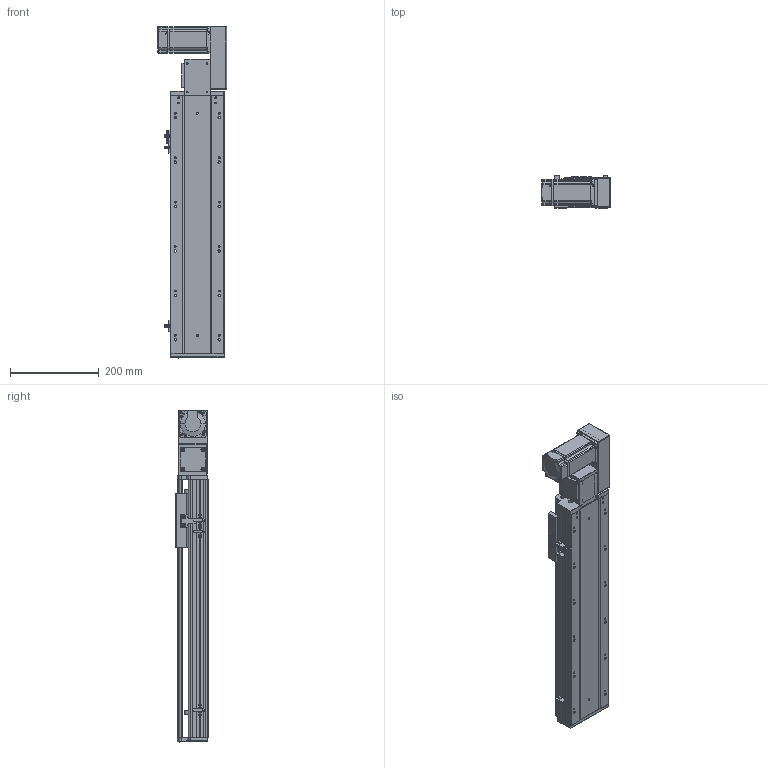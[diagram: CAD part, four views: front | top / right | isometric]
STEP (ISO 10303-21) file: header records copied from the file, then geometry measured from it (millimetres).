
FILE_DESCRIPTION (( 'STEP AP203' ), '1' );
FILE_NAME ('RY120-T-300-RK.SLDASM_350.step', '2021-03-01T03:52:31', ( '盈信电脑' ), ( '东莞市道滘镇水果街19号' ), 'SwSTEP 2.0', 'SolidWorks 2012', '' );
FILE_SCHEMA (( 'CONFIG_CONTROL_DESIGN' ));
Length unit declared in the file: millimetre
Products named in the file (17): RY120-T-300-RK.SLDASM_350; RY120-T主同步轮轴承压盖; RY120-T萇儂欶; RY120-T蹟翐M4; 15; RY120-T翋肮祭謫裔啣; RY120-T萇儂假蚾啣; RY120-T肮祭湍揤踡輸2; RY120-T肮祭湍揤踡輸1; 滅袉蝶18-10; RY120-T翋肮祭盓傅釱; RY120外置感应片(140共用）; 覜茼ん672; RY120綴裔啣; RY120肮祭湍臏賑輸; RY120-T-300-RK倰第奻裔啣_350; RY120-T-300-RK倰第菁釱_350
Assembly tree (22 placements, depth 2):
  RY120-T-300-RK.SLDASM_350
    RY120-T-300-RK倰第菁釱_350
    RY120-T-300-RK倰第奻裔啣_350
    RY120肮祭湍臏賑輸
    RY120綴裔啣
    覜茼ん672  x3
    RY120外置感应片(140共用）
    RY120-T肮祭湍揤踡輸1
    RY120-T肮祭湍揤踡輸2
    RY120-T翋肮祭盓傅釱
    滅袉蝶18-10  x2
    RY120-T翋肮祭謫裔啣
    15
    RY120-T萇儂假蚾啣
    RY120-T蹟翐M4  x4
    RY120-T萇儂欶
    RY120-T主同步轮轴承压盖
Bounding box: 155.5 x 73 x 747.5 mm (x, y, z)
Volume: 2191904.7 mm3; surface area: 786987.2 mm2
Topology: 23 solids, 23 shells, 2686 faces, 7320 edges, 4720 vertices
Faces by surface type: plane 1406, cylinder 988, cone 203, bspline 89
Entity records: 85287 total; most frequent: CARTESIAN_POINT 21522, ORIENTED_EDGE 13152, DIRECTION 12414, EDGE_CURVE 6576, VERTEX_POINT 4307, VECTOR 4176, LINE 4176, AXIS2_PLACEMENT_3D 4119
